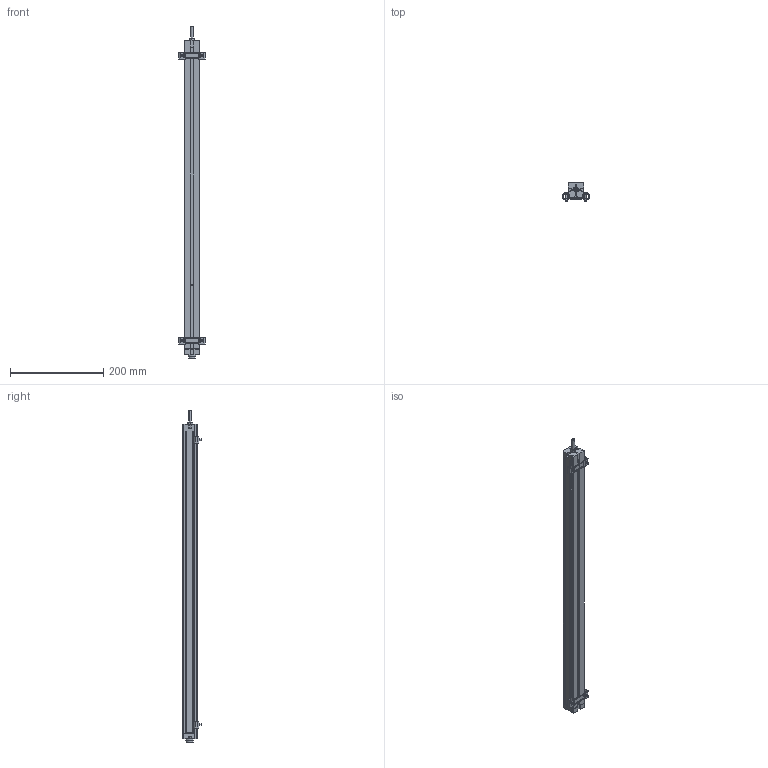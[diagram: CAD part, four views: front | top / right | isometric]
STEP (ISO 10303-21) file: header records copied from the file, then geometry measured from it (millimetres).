
FILE_DESCRIPTION(('STEP AP214'),'1');
FILE_NAME('burster_8719-5600_9stcgmf2hno1t3tq2sn7acsoe.stp','2017-04-19T12:55:43',('TraceParts'),('TraceParts S.A.'),'Spatial InterOp 3D',' ',' ');
FILE_SCHEMA(('automotive_design'));
Length unit declared in the file: millimetre
Products named in the file (1): burster_8719-5600_9stcgmf2hno1t3tq2sn7acsoe
Bounding box: 56 x 39.7 x 712.3 mm (x, y, z)
Volume: 672451.6 mm3; surface area: 118723.3 mm2
Topology: 1 solids, 3 shells, 674 faces, 1681 edges, 1006 vertices
Faces by surface type: plane 387, cylinder 195, cone 58, torus 12, bspline 12, sphere 10
Entity records: 25304 total; most frequent: CARTESIAN_POINT 3772, DIRECTION 3438, ORIENTED_EDGE 3342, EDGE_CURVE 1671, AXIS2_PLACEMENT_3D 1176, LINE 1086, VECTOR 1086, VERTEX_POINT 1006
